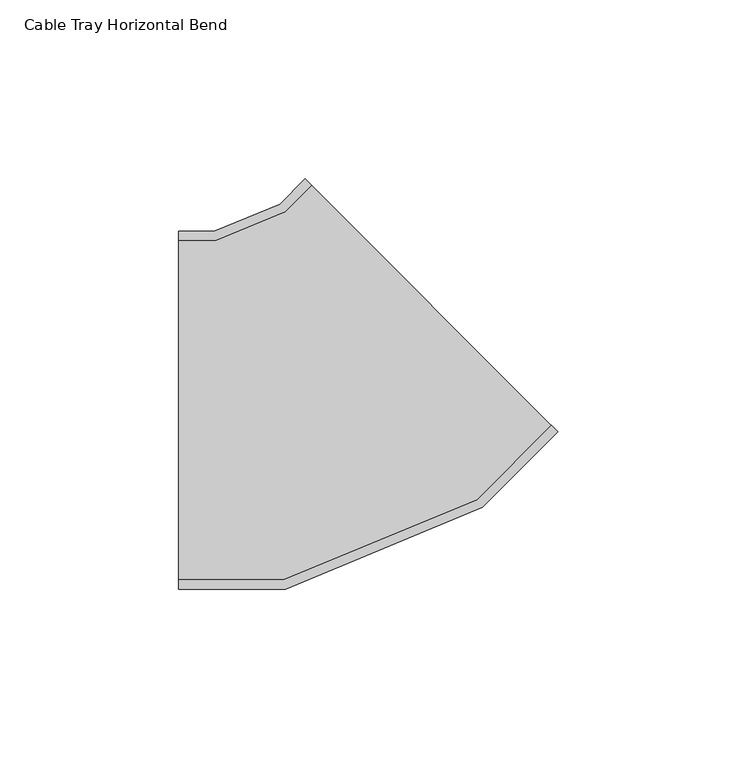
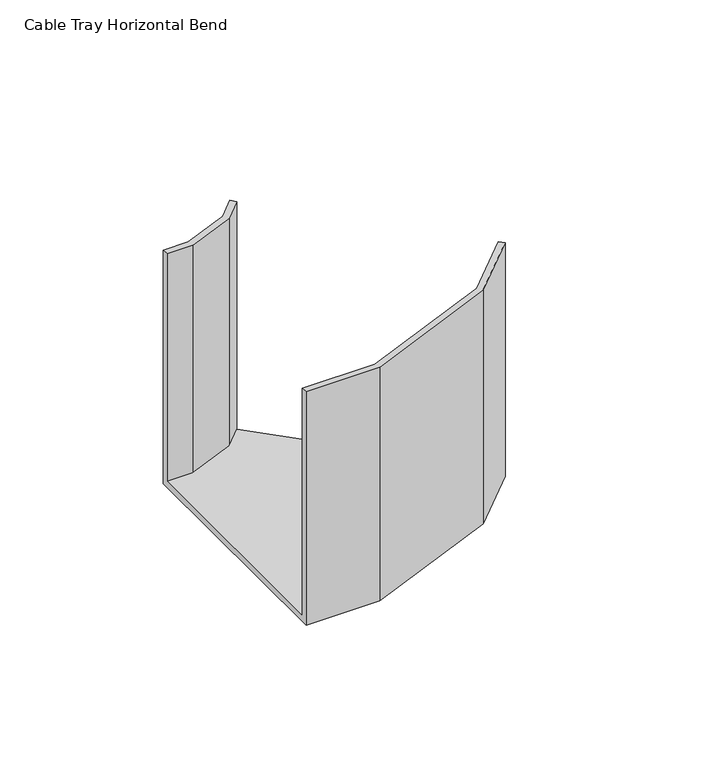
"""IFC4 building model written with IfcOpenShell, lengths in millimetres: cable carrier fitting geometry, Cable Tray Horizontal Bend : ELEC_ELV_TKG_N2402."""

from ifc_helpers import new_model, si_unit, origin, place, context, project, spatial, faceted_brep, source, transform, mapped, element, save


def cable_tray_horizontal_bend_a37de1d9(model_context):
    return source(origin(), model_context, "Body", "Brep", [
        faceted_brep([(-41.4213562, -50.0, -50.0), (-41.4213562, -50.0, 50.0), (-41.4213562, -47.46, 50.0), (-41.4213562, -47.46, -47.46), (-41.4213562, 47.46, -47.46), (-41.4213562, 47.46, 50.0), (-41.4213562, 50.0, 50.0), (-41.4213562, 50.0, -50.0), (64.6446609, -6.0660172, -50.0), (-6.0660172, 64.6446609, -50.0), (-6.0660172, 64.6446609, 50.0), (-4.269966, 62.8486097, 50.0), (-4.269966, 62.8486097, -47.46), (62.8486097, -4.269966, -47.46), (62.8486097, -4.269966, 50.0), (64.6446609, -6.0660172, 50.0), (-11.5845011, -50.0, -50.0), (-11.5845011, -50.0, 50.0), (43.5468184, -27.1638598, 50.0), (42.1080239, -25.0105517, 50.0), (-12.0897385, -47.46, 50.0), (-12.0897385, -47.46, -47.46), (42.1080239, -25.0105517, -47.46), (-11.659837, 55.4587387, -47.46), (-30.9705005, 47.46, -47.46), (-30.9705005, 47.46, 50.0), (-11.659837, 55.4587387, 50.0), (-13.0986314, 57.6120467, 50.0), (-31.4757379, 50.0, 50.0), (-31.4757379, 50.0, -50.0), (-13.0986314, 57.6120467, -50.0), (43.5468184, -27.1638598, -50.0)], [[[0, 1, 2, 3, 4, 5, 6, 7]], [[8, 9, 10, 11, 12, 13, 14, 15]], [[1, 0, 16, 17]], [[2, 1, 17, 18, 15, 14, 19, 20]], [[3, 2, 20, 21]], [[4, 3, 21, 22, 13, 12, 23, 24]], [[5, 4, 24, 25]], [[6, 5, 25, 26, 11, 10, 27, 28]], [[7, 6, 28, 29]], [[0, 7, 29, 30, 9, 8, 31, 16]], [[17, 16, 31, 18]], [[21, 20, 19, 22]], [[25, 24, 23, 26]], [[29, 28, 27, 30]], [[18, 31, 8, 15]], [[22, 19, 14, 13]], [[26, 23, 12, 11]], [[30, 27, 10, 9]]]),
    ])


if __name__ == "__main__":
    model = new_model("IFC4")
    model_context = context("Model", 3, world=origin())
    ifc_project = project(units=[si_unit("LENGTHUNIT", "METRE", prefix="MILLI")], contexts=[model_context])
    site = spatial("IfcSite", under=ifc_project)
    building = spatial("IfcBuilding", under=site)
    placement = place(None, origin())
    cable_tray_horizontal_bend_shape = cable_tray_horizontal_bend_a37de1d9(model_context)
    element("IfcCableCarrierFitting", 1, ObjectType="Cable Tray Horizontal Bend : ELEC_ELV_TKG_N2402", at=placement, inside=building, context=model_context, shape_type="MappedRepresentation", body=[
        mapped(cable_tray_horizontal_bend_shape, transform((0.0, 0.0, 0.0), x_axis=(1.0, 0.0, 0.0), y_axis=(0.0, 1.0, 0.0), z_axis=(0.0, 0.0, 1.0))),
    ])
    save(model, "model.ifc")
